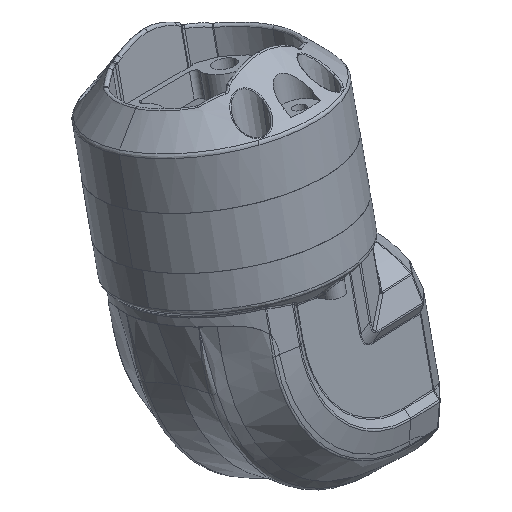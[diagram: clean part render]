
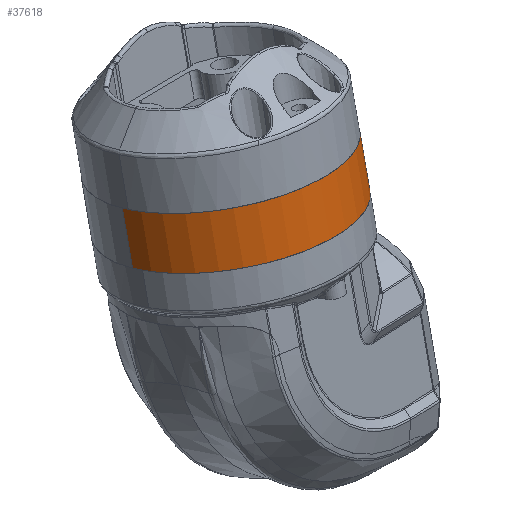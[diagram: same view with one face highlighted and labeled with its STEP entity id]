
A CAD part, isometric view. The second image highlights one B-rep face of the part: STEP entity #37618.
In plain terms, the highlighted cylindrical face has radius 45 mm (diameter 90 mm), a partial arc.
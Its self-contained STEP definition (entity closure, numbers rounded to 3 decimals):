
#1173 = VECTOR ( 'NONE', #43749, 1000. ) ;
#1232 = VERTEX_POINT ( 'NONE', #27698 ) ;
#2496 = VECTOR ( 'NONE', #17593, 1000. ) ;
#2666 = ORIENTED_EDGE ( 'NONE', *, *, #14564, .F. ) ;
#3231 = VERTEX_POINT ( 'NONE', #44522 ) ;
#4325 = ORIENTED_EDGE ( 'NONE', *, *, #21225, .T. ) ;
#10030 = FACE_OUTER_BOUND ( 'NONE', #30607, .T. ) ;
#12461 = EDGE_CURVE ( 'NONE', #15385, #1232, #16814, .T. ) ;
#13389 = CARTESIAN_POINT ( 'NONE',  ( 45., 0., -640.5 ) ) ;
#14564 = EDGE_CURVE ( 'NONE', #1232, #17660, #26001, .T. ) ;
#15385 = VERTEX_POINT ( 'NONE', #45844 ) ;
#16223 = EDGE_CURVE ( 'NONE', #15385, #3231, #45580, .T. ) ;
#16814 = CIRCLE ( 'NONE', #27470, 45. ) ;
#16843 = CARTESIAN_POINT ( 'NONE',  ( 0., 0., -640.5 ) ) ;
#16860 = CARTESIAN_POINT ( 'NONE',  ( 45., 0., -651. ) ) ;
#17593 = DIRECTION ( 'NONE',  ( 0., 0., -1. ) ) ;
#17660 = VERTEX_POINT ( 'NONE', #16860 ) ;
#21225 = EDGE_CURVE ( 'NONE', #3231, #17660, #34713, .T. ) ;
#23126 = CARTESIAN_POINT ( 'NONE',  ( 0., 0., -651. ) ) ;
#23586 = ORIENTED_EDGE ( 'NONE', *, *, #12461, .F. ) ;
#24280 = DIRECTION ( 'NONE',  ( 0., 0., 1. ) ) ;
#26001 = LINE ( 'NONE', #13389, #2496 ) ;
#27315 = DIRECTION ( 'NONE',  ( -1., 0., 0. ) ) ;
#27470 = AXIS2_PLACEMENT_3D ( 'NONE', #49357, #24280, #53542 ) ;
#27698 = CARTESIAN_POINT ( 'NONE',  ( 45., 0., -630. ) ) ;
#27938 = AXIS2_PLACEMENT_3D ( 'NONE', #23126, #52380, #27315 ) ;
#30607 = EDGE_LOOP ( 'NONE', ( #2666, #23586, #52785, #4325 ) ) ;
#31280 = CARTESIAN_POINT ( 'NONE',  ( -45., 0., -640.5 ) ) ;
#33818 = DIRECTION ( 'NONE',  ( 0., 0., -1. ) ) ;
#34713 = CIRCLE ( 'NONE', #27938, 45. ) ;
#35377 = AXIS2_PLACEMENT_3D ( 'NONE', #16843, #33818, #50488 ) ;
#37618 = ADVANCED_FACE ( 'NONE', ( #10030 ), #39434, .T. ) ;
#39434 = CYLINDRICAL_SURFACE ( 'NONE', #35377, 45. ) ;
#43749 = DIRECTION ( 'NONE',  ( 0., 0., -1. ) ) ;
#44522 = CARTESIAN_POINT ( 'NONE',  ( -45., 0., -651. ) ) ;
#45580 = LINE ( 'NONE', #31280, #1173 ) ;
#45844 = CARTESIAN_POINT ( 'NONE',  ( -45., 0., -630. ) ) ;
#49357 = CARTESIAN_POINT ( 'NONE',  ( 0., 0., -630. ) ) ;
#50488 = DIRECTION ( 'NONE',  ( -1., 0., 0. ) ) ;
#52380 = DIRECTION ( 'NONE',  ( 0., 0., 1. ) ) ;
#52785 = ORIENTED_EDGE ( 'NONE', *, *, #16223, .T. ) ;
#53542 = DIRECTION ( 'NONE',  ( -1., 0., 0. ) ) ;
